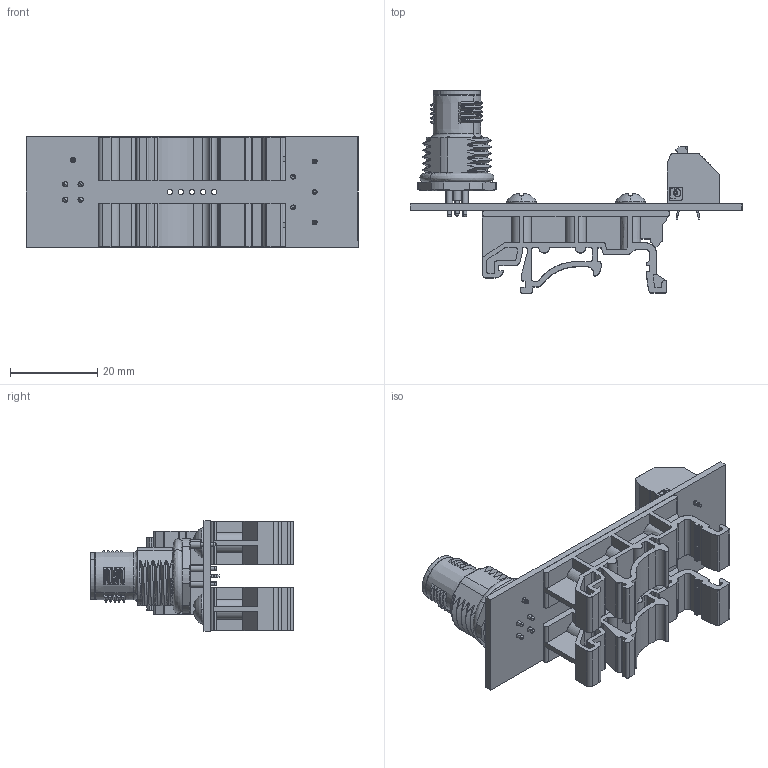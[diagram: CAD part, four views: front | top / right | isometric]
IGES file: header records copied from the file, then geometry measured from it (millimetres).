
Start section: SolidWorks IGES file using analytic representation for surfaces
Global section: file name: W:\end-user\products\brk\brkgm12\brkgm12a-4ms\3dmodel\rev_a\render\brkgm12a-4ms-din_rev_a.igs; native system: SolidWorks 2018; preprocessor: SolidWorks 2018; author: leviroy; date: 220131.100136; units: inch
Bounding box: 76.2 x 46.56 x 25.4 mm (x, y, z)
Surface area: 17392.3 mm2 (no closed solid volume)
Topology: 0 solids, 0 shells, 2734 faces, 25435 edges, 25430 vertices
Faces by surface type: bspline 2031, revolution 703
